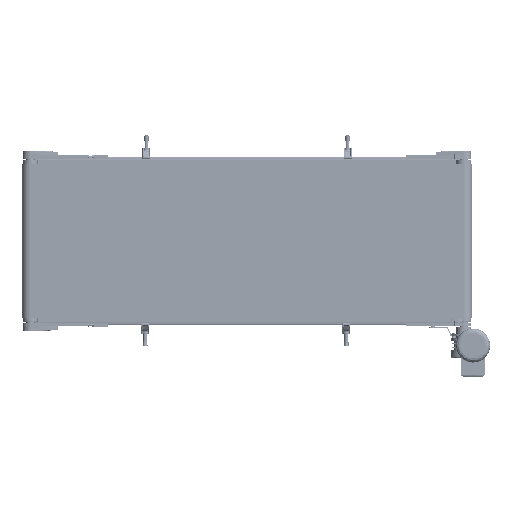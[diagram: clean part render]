
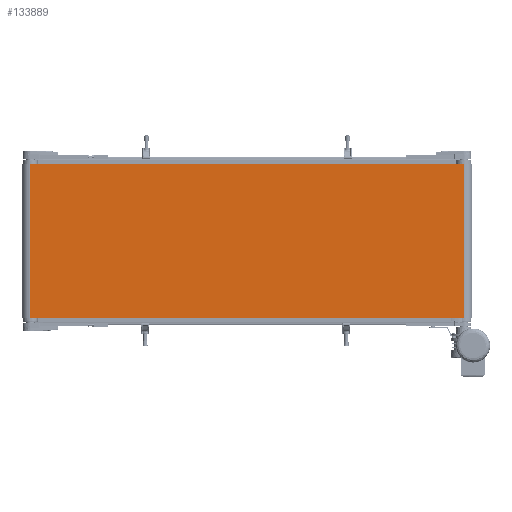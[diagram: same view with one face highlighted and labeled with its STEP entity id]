
A CAD part, front view. The second image highlights one B-rep face of the part: STEP entity #133889.
In plain terms, the highlighted planar face has unit normal (0, -1, 0).
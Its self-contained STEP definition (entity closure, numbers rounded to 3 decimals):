
#7903 = EDGE_CURVE ( 'NONE', #158190, #55499, #13880, .T. ) ;
#13880 = LINE ( 'NONE', #62739, #58830 ) ;
#17348 = CARTESIAN_POINT ( 'NONE',  ( 700., -27., -250. ) ) ;
#19268 = VECTOR ( 'NONE', #55696, 1000. ) ;
#22186 = PLANE ( 'NONE',  #56236 ) ;
#22818 = CARTESIAN_POINT ( 'NONE',  ( -700., -27., -250. ) ) ;
#24193 = ORIENTED_EDGE ( 'NONE', *, *, #96247, .T. ) ;
#31021 = DIRECTION ( 'NONE',  ( 1., 0., 0. ) ) ;
#33402 = FACE_OUTER_BOUND ( 'NONE', #156256, .T. ) ;
#34779 = LINE ( 'NONE', #154155, #19268 ) ;
#44656 = CARTESIAN_POINT ( 'NONE',  ( -700., -27., 250. ) ) ;
#51870 = ORIENTED_EDGE ( 'NONE', *, *, #104914, .F. ) ;
#55499 = VERTEX_POINT ( 'NONE', #17348 ) ;
#55696 = DIRECTION ( 'NONE',  ( 0., 0., -1. ) ) ;
#56236 = AXIS2_PLACEMENT_3D ( 'NONE', #44656, #131084, #80704 ) ;
#57704 = CARTESIAN_POINT ( 'NONE',  ( 700., -27., 250. ) ) ;
#58830 = VECTOR ( 'NONE', #111530, 1000. ) ;
#60042 = EDGE_CURVE ( 'NONE', #155598, #147265, #103045, .T. ) ;
#62739 = CARTESIAN_POINT ( 'NONE',  ( -700., -27., -250. ) ) ;
#67715 = VECTOR ( 'NONE', #138328, 1000. ) ;
#67866 = CARTESIAN_POINT ( 'NONE',  ( -700., -27., 250. ) ) ;
#78309 = LINE ( 'NONE', #127106, #67715 ) ;
#80704 = DIRECTION ( 'NONE',  ( 0., 0., 1. ) ) ;
#93638 = CARTESIAN_POINT ( 'NONE',  ( -700., -27., 250. ) ) ;
#93884 = ORIENTED_EDGE ( 'NONE', *, *, #7903, .T. ) ;
#96247 = EDGE_CURVE ( 'NONE', #155598, #158190, #34779, .T. ) ;
#99708 = VECTOR ( 'NONE', #31021, 1000. ) ;
#103045 = LINE ( 'NONE', #67866, #99708 ) ;
#104914 = EDGE_CURVE ( 'NONE', #147265, #55499, #78309, .T. ) ;
#106035 = ORIENTED_EDGE ( 'NONE', *, *, #60042, .F. ) ;
#111530 = DIRECTION ( 'NONE',  ( 1., 0., 0. ) ) ;
#127106 = CARTESIAN_POINT ( 'NONE',  ( 700., -27., 250. ) ) ;
#131084 = DIRECTION ( 'NONE',  ( 0., 1., 0. ) ) ;
#133889 = ADVANCED_FACE ( 'NONE', ( #33402 ), #22186, .F. ) ;
#138328 = DIRECTION ( 'NONE',  ( 0., 0., -1. ) ) ;
#147265 = VERTEX_POINT ( 'NONE', #57704 ) ;
#154155 = CARTESIAN_POINT ( 'NONE',  ( -700., -27., 250. ) ) ;
#155598 = VERTEX_POINT ( 'NONE', #93638 ) ;
#156256 = EDGE_LOOP ( 'NONE', ( #93884, #51870, #106035, #24193 ) ) ;
#158190 = VERTEX_POINT ( 'NONE', #22818 ) ;
